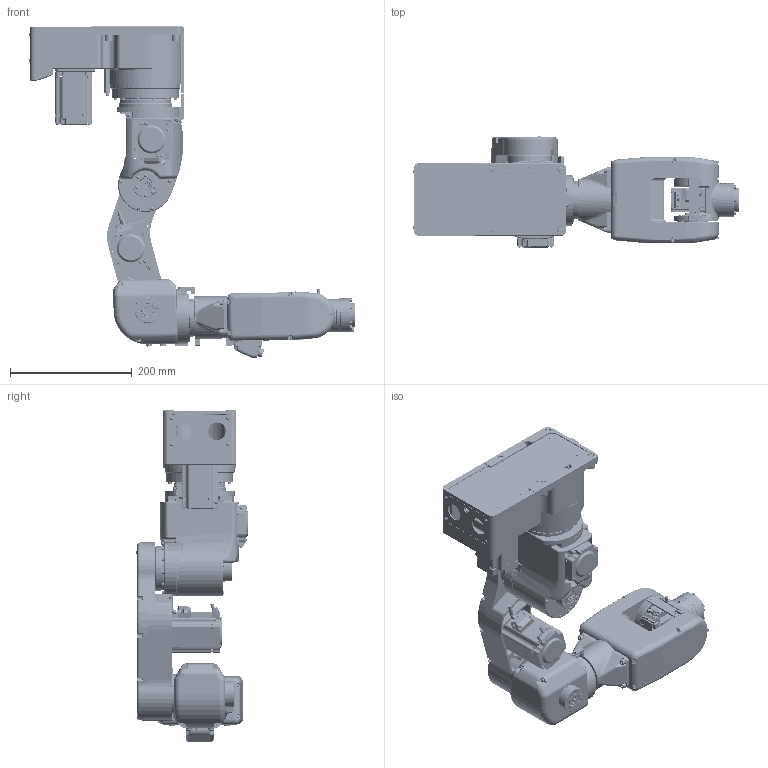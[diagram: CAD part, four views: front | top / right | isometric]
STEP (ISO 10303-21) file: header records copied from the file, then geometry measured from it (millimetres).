
FILE_DESCRIPTION (( 'STEP AP203' ), '1' );
FILE_NAME ('U6-0405（R6-0405） 3D模型.STEP', '2021-03-22T08:44:37', ( 'iCura' ), ( 'ICOS' ), 'SwSTEP 2.0', 'SolidWorks 2018', '' );
FILE_SCHEMA (( 'CONFIG_CONTROL_DESIGN' ));
Products named in the file (7): U6-0405-2-00-R1; U6-0405-1-00-R1; 蚾饜极1^U6-0405-00-R0; U6-0405（R6-0405） 3D模型; U6-0405-3-00-R1; U6-0303-4-00-R1; U6-0303-6-00-R1
Assembly tree (6 placements, depth 2):
  U6-0405（R6-0405） 3D模型
    U6-0405-1-00-R1
    U6-0405-2-00-R1
    U6-0405-3-00-R1
    U6-0303-4-00-R1
    蚾饜极1^U6-0405-00-R0
    U6-0303-6-00-R1
Bounding box: 536.78 x 183.55 x 546.39 mm (x, y, z)
Surface area: 991523.8 mm2 (no closed solid volume)
Topology: 0 solids, 494 shells, 7372 faces, 24122 edges, 16715 vertices
Faces by surface type: cylinder 2719, plane 2651, bspline 773, cone 699, torus 416, sphere 114
Entity records: 295181 total; most frequent: CARTESIAN_POINT 87521, DIRECTION 44361, ORIENTED_EDGE 39413, EDGE_CURVE 23859, AXIS2_PLACEMENT_3D 16787, VERTEX_POINT 16712, VECTOR 10787, LINE 10787
